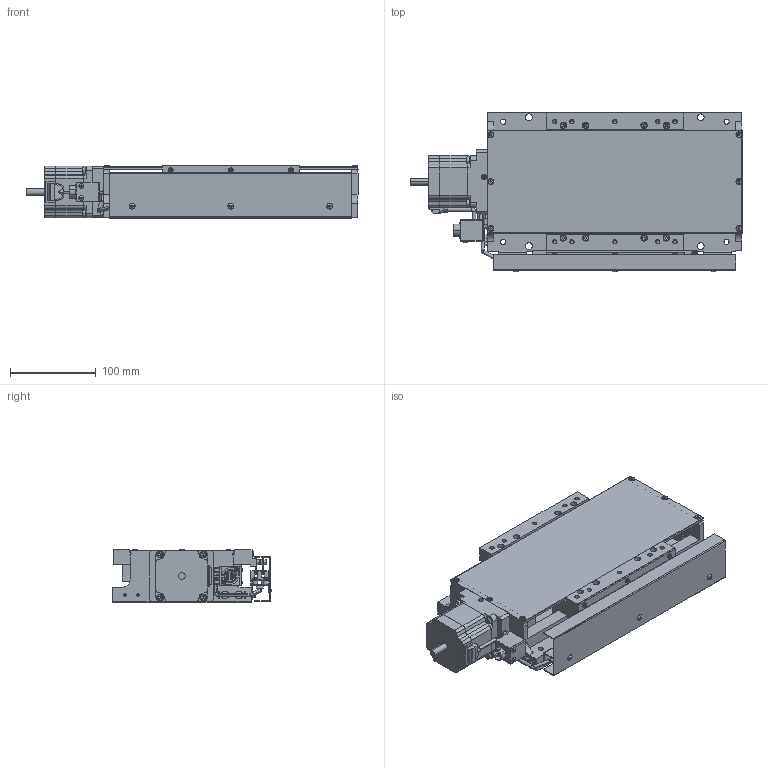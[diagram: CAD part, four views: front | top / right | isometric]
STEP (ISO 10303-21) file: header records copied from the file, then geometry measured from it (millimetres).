
FILE_DESCRIPTION (( 'STEP AP203' ), '1' );
FILE_NAME ('XA16F-L2101.STEP', '2019-02-20T08:03:25', ( '' ), ( '' ), 'SwSTEP 2.0', 'SolidWorks 2018', '' );
FILE_SCHEMA (( 'CONFIG_CONTROL_DESIGN' ));
Length unit declared in the file: millimetre
Products named in the file (3): XA16F-L2101; table; base
Assembly tree (2 placements, depth 2):
  XA16F-L2101
    table
    base
Bounding box: 386.5 x 185.89 x 62 mm (x, y, z)
Volume: 1818017.4 mm3; surface area: 434697.4 mm2
Topology: 2 solids, 4 shells, 2589 faces, 6367 edges, 3926 vertices
Faces by surface type: plane 1515, cylinder 650, cone 336, torus 36, sphere 32, bspline 20
Entity records: 76689 total; most frequent: CARTESIAN_POINT 14280, DIRECTION 13426, ORIENTED_EDGE 12530, EDGE_CURVE 6265, AXIS2_PLACEMENT_3D 4724, LINE 3978, VECTOR 3978, VERTEX_POINT 3924
